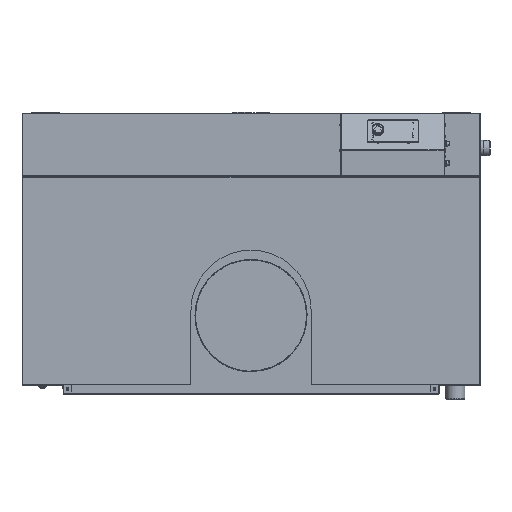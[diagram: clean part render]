
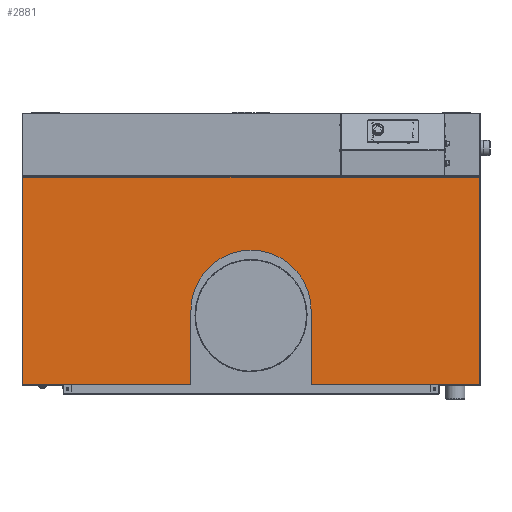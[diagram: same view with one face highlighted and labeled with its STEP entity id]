
A CAD part, top view. The second image highlights one B-rep face of the part: STEP entity #2881.
In plain terms, the highlighted planar face has unit normal (0, 0, 1).
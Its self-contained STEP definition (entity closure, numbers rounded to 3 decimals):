
#2881=ADVANCED_FACE('',(#27377),#27379,.T.);
#27377=FACE_BOUND('',#27378,.T.);
#27378=EDGE_LOOP('',(#63301,#63302,#63303,#63304,#63305,#63306,#63307,#63308));
#27379=PLANE('',#27380);
#27380=AXIS2_PLACEMENT_3D('',#27381,#27382,#27383);
#27381=CARTESIAN_POINT('',(0.,-39.,1065.4));
#27382=DIRECTION('',(0.,0.,1.));
#27383=DIRECTION('',(1.,0.,0.));
#63301=ORIENTED_EDGE('',*,*,#80820,.T.);
#63302=ORIENTED_EDGE('',*,*,#80831,.T.);
#63303=ORIENTED_EDGE('',*,*,#80829,.T.);
#63304=ORIENTED_EDGE('',*,*,#80832,.T.);
#63305=ORIENTED_EDGE('',*,*,#81001,.T.);
#63306=ORIENTED_EDGE('',*,*,#81002,.T.);
#63307=ORIENTED_EDGE('',*,*,#81003,.T.);
#63308=ORIENTED_EDGE('',*,*,#80811,.T.);
#80811=EDGE_CURVE('',#97099,#97112,#97656,.T.);
#80820=EDGE_CURVE('',#97112,#97666,#97668,.F.);
#80829=EDGE_CURVE('',#97682,#97292,#97683,.F.);
#80831=EDGE_CURVE('',#97666,#97682,#97685,.F.);
#80832=EDGE_CURVE('',#97292,#97295,#97686,.T.);
#81001=EDGE_CURVE('',#97295,#97950,#97951,.T.);
#81002=EDGE_CURVE('',#97950,#97952,#97953,.T.);
#81003=EDGE_CURVE('',#97952,#97099,#97954,.T.);
#97099=VERTEX_POINT('',#135132);
#97112=VERTEX_POINT('',#135180);
#97292=VERTEX_POINT('',#135615);
#97295=VERTEX_POINT('',#135623);
#97656=LINE('',#138730,#138731);
#97666=VERTEX_POINT('',#138789);
#97668=LINE('',#138793,#138794);
#97682=VERTEX_POINT('',#138870);
#97683=LINE('',#138871,#138872);
#97685=CIRCLE('',#138877,187.5);
#97686=LINE('',#138881,#138882);
#97950=VERTEX_POINT('',#139713);
#97951=LINE('',#139714,#139715);
#97952=VERTEX_POINT('',#139717);
#97953=LINE('',#139718,#139719);
#97954=LINE('',#139721,#139722);
#135132=CARTESIAN_POINT('',(-713.,-362.5,1065.4));
#135180=CARTESIAN_POINT('',(-187.5,-362.5,1065.4));
#135615=CARTESIAN_POINT('',(187.5,-362.5,1065.4));
#135623=CARTESIAN_POINT('',(713.,-362.5,1065.4));
#138730=CARTESIAN_POINT('',(-713.,-362.5,1065.4));
#138731=VECTOR('',#138732,1.);
#138732=DIRECTION('',(1.,0.,0.));
#138789=CARTESIAN_POINT('',(-187.5,-131.,1065.4));
#138793=CARTESIAN_POINT('',(-187.5,-131.,1065.4));
#138794=VECTOR('',#138795,1.);
#138795=DIRECTION('',(0.,-1.,0.));
#138870=CARTESIAN_POINT('',(187.5,-131.,1065.4));
#138871=CARTESIAN_POINT('',(187.5,-362.5,1065.4));
#138872=VECTOR('',#138873,1.);
#138873=DIRECTION('',(0.,1.,0.));
#138877=AXIS2_PLACEMENT_3D('',#138878,#138879,#138880);
#138878=CARTESIAN_POINT('',(0.,-131.,1065.4));
#138879=DIRECTION('',(0.,0.,1.));
#138880=DIRECTION('',(1.,0.,0.));
#138881=CARTESIAN_POINT('',(187.5,-362.5,1065.4));
#138882=VECTOR('',#138883,1.);
#138883=DIRECTION('',(1.,0.,0.));
#139713=CARTESIAN_POINT('',(713.,284.5,1065.4));
#139714=CARTESIAN_POINT('',(713.,-362.5,1065.4));
#139715=VECTOR('',#139716,1.);
#139716=DIRECTION('',(0.,1.,0.));
#139717=CARTESIAN_POINT('',(-713.,284.5,1065.4));
#139718=CARTESIAN_POINT('',(713.,284.5,1065.4));
#139719=VECTOR('',#139720,1.);
#139720=DIRECTION('',(-1.,0.,0.));
#139721=CARTESIAN_POINT('',(-713.,284.5,1065.4));
#139722=VECTOR('',#139723,1.);
#139723=DIRECTION('',(0.,-1.,0.));
